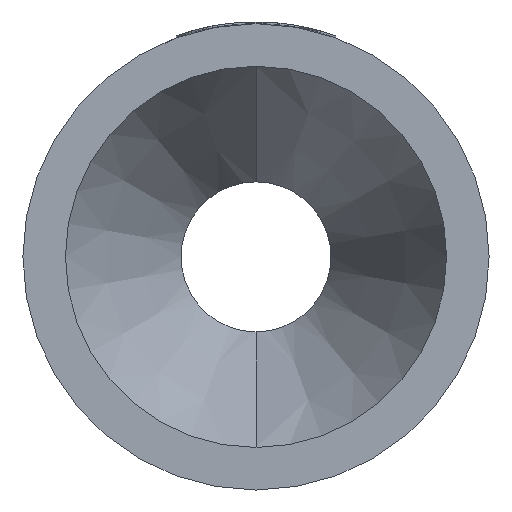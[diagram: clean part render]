
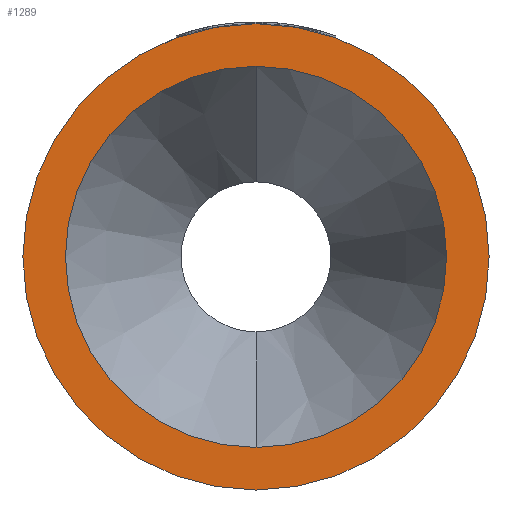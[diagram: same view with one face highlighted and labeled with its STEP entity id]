
A CAD part, left-side view. The second image highlights one B-rep face of the part: STEP entity #1289.
In plain terms, the highlighted planar face has unit normal (-1, 0, 0).
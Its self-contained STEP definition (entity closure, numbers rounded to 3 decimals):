
#2 = CIRCLE ( 'NONE', #2878, 51.1 ) ;
#20 = CIRCLE ( 'NONE', #2786, 62.5 ) ;
#56 = CIRCLE ( 'NONE', #1653, 51.1 ) ;
#118 = EDGE_CURVE ( 'NONE', #2365, #376, #2, .T. ) ;
#122 = EDGE_CURVE ( 'NONE', #986, #563, #20, .T. ) ;
#143 = CARTESIAN_POINT ( 'NONE',  ( 0., 0., -62.5 ) ) ;
#306 = EDGE_LOOP ( 'NONE', ( #595, #615 ) ) ;
#376 = VERTEX_POINT ( 'NONE', #2540 ) ;
#525 = EDGE_CURVE ( 'NONE', #563, #986, #2810, .T. ) ;
#563 = VERTEX_POINT ( 'NONE', #1447 ) ;
#595 = ORIENTED_EDGE ( 'NONE', *, *, #118, .F. ) ;
#615 = ORIENTED_EDGE ( 'NONE', *, *, #3360, .F. ) ;
#616 = ORIENTED_EDGE ( 'NONE', *, *, #525, .T. ) ;
#626 = ORIENTED_EDGE ( 'NONE', *, *, #122, .T. ) ;
#818 = EDGE_LOOP ( 'NONE', ( #616, #626 ) ) ;
#953 = DIRECTION ( 'NONE',  ( 1., 0., 0. ) ) ;
#986 = VERTEX_POINT ( 'NONE', #143 ) ;
#1122 = DIRECTION ( 'NONE',  ( 0., 0., -1. ) ) ;
#1250 = CARTESIAN_POINT ( 'NONE',  ( 0., 51.1, 0. ) ) ;
#1289 = ADVANCED_FACE ( 'NONE', ( #3346, #3345 ), #2013, .F. ) ;
#1321 = AXIS2_PLACEMENT_3D ( 'NONE', #1250, #953, #1122 ) ;
#1447 = CARTESIAN_POINT ( 'NONE',  ( 0., 0., 62.5 ) ) ;
#1653 = AXIS2_PLACEMENT_3D ( 'NONE', #2742, #2700, #2678 ) ;
#1947 = DIRECTION ( 'NONE',  ( 0., 0., 1. ) ) ;
#1951 = DIRECTION ( 'NONE',  ( -1., 0., 0. ) ) ;
#1961 = CARTESIAN_POINT ( 'NONE',  ( 0., 0., 0. ) ) ;
#2013 = PLANE ( 'NONE',  #1321 ) ;
#2365 = VERTEX_POINT ( 'NONE', #2366 ) ;
#2366 = CARTESIAN_POINT ( 'NONE',  ( 0., 0., 51.1 ) ) ;
#2540 = CARTESIAN_POINT ( 'NONE',  ( 0., 0., -51.1 ) ) ;
#2678 = DIRECTION ( 'NONE',  ( 0., 0., 1. ) ) ;
#2700 = DIRECTION ( 'NONE',  ( -1., 0., 0. ) ) ;
#2727 = AXIS2_PLACEMENT_3D ( 'NONE', #1961, #1951, #1947 ) ;
#2742 = CARTESIAN_POINT ( 'NONE',  ( 0., 0., 0. ) ) ;
#2786 = AXIS2_PLACEMENT_3D ( 'NONE', #3254, #3252, #3246 ) ;
#2810 = CIRCLE ( 'NONE', #2727, 62.5 ) ;
#2878 = AXIS2_PLACEMENT_3D ( 'NONE', #3281, #3267, #3263 ) ;
#3246 = DIRECTION ( 'NONE',  ( 0., 0., 1. ) ) ;
#3252 = DIRECTION ( 'NONE',  ( -1., 0., 0. ) ) ;
#3254 = CARTESIAN_POINT ( 'NONE',  ( 0., 0., 0. ) ) ;
#3263 = DIRECTION ( 'NONE',  ( 0., 0., 1. ) ) ;
#3267 = DIRECTION ( 'NONE',  ( -1., 0., 0. ) ) ;
#3281 = CARTESIAN_POINT ( 'NONE',  ( 0., 0., 0. ) ) ;
#3345 = FACE_OUTER_BOUND ( 'NONE', #818, .T. ) ;
#3346 = FACE_BOUND ( 'NONE', #306, .T. ) ;
#3360 = EDGE_CURVE ( 'NONE', #376, #2365, #56, .T. ) ;
